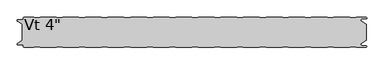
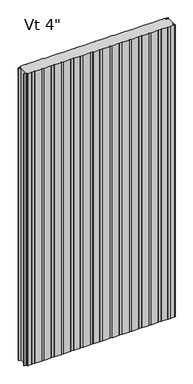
"""IFC4 building model written with IfcOpenShell, lengths in millimetres: plate geometry."""

from ifc_helpers import new_model, si_unit, frame, origin, place, context, project, spatial, polyline, circle_curve, source, transform, mapped, element, save
from ifc_brep_helpers import plane_surface, cylinder_surface, revolved_surface, advanced_brep


def plate_4e78df50(model_context):
    return source(origin(), model_context, "Body", "AdvancedBrep", [
        advanced_brep(
        [(521.5205195, -99.4088405, 2400.0), (541.3035142, -99.4088405, 2400.0), (542.3760351, -100.5999956, 2400.0), (574.5475652, -100.5999956, 2400.0), (576.5248337, -98.6227271, 2400.0), (576.5248337, -97.5806285, 2400.0), (574.5475652, -95.60336, 2400.0), (560.3591802, -95.60336, 2400.0), (557.7713036, -93.0154835, 2400.0), (557.7713036, -88.6950653, 2400.0), (557.1628365, -88.1060718, 2400.0), (554.7857432, -88.1060718, 2400.0), (554.7857432, -87.1065979, 2400.0), (560.2280123, -87.1065979, 2400.0), (576.2625, -77.8490821, 2400.0), (576.2625, -23.7509179, 2400.0), (560.2280123, -14.4934021, 2400.0), (554.7857432, -14.4934021, 2400.0), (554.7857432, -13.4939282, 2400.0), (557.1628365, -13.4939282, 2400.0), (557.7713036, -12.9049347, 2400.0), (557.7713036, -8.5845165, 2400.0), (560.3591802, -5.99664, 2400.0), (574.5475652, -5.99664, 2400.0), (576.5248337, -4.0193715, 2400.0), (576.5248337, -2.9772729, 2400.0), (574.5475652, -1.0000044, 2400.0), (542.3760351, -1.0000044, 2400.0), (541.3035142, -2.1911595, 2400.0), (521.5205195, -2.1911595, 2400.0), (520.4479947, -1.0, 2400.0), (466.7534187, -1.0, 2400.0), (465.6808939, -2.1911595, 2400.0), (445.8978992, -2.1911595, 2400.0), (444.8253744, -1.0, 2400.0), (391.1307985, -1.0, 2400.0), (390.0582736, -2.1911595, 2400.0), (370.275279, -2.1911595, 2400.0), (369.2027541, -1.0, 2400.0), (315.5081782, -1.0, 2400.0), (314.4356534, -2.1911595, 2400.0), (294.6526587, -2.1911595, 2400.0), (293.5801339, -1.0, 2400.0), (239.885558, -1.0, 2400.0), (238.8130331, -2.1911595, 2400.0), (219.0300384, -2.1911595, 2400.0), (217.9575136, -1.0, 2400.0), (164.2629377, -1.0, 2400.0), (163.1904129, -2.1911595, 2400.0), (143.4074182, -2.1911595, 2400.0), (142.3348933, -1.0, 2400.0), (88.6403174, -1.0, 2400.0), (87.5677926, -2.1911595, 2400.0), (67.7847979, -2.1911595, 2400.0), (66.7122731, -1.0, 2400.0), (13.0176972, -1.0, 2400.0), (11.9451723, -2.1911595, 2400.0), (-7.8378224, -2.1911595, 2400.0), (-8.9103472, -1.0, 2400.0), (-62.6049231, -1.0, 2400.0), (-63.6774479, -2.1911595, 2400.0), (-83.4604426, -2.1911595, 2400.0), (-84.5329675, -1.0, 2400.0), (-138.2275434, -1.0, 2400.0), (-139.3000682, -2.1911595, 2400.0), (-159.0830629, -2.1911595, 2400.0), (-160.1555877, -1.0, 2400.0), (-213.8501636, -1.0, 2400.0), (-214.9226885, -2.1911595, 2400.0), (-234.7056831, -2.1911595, 2400.0), (-235.778208, -1.0, 2400.0), (-289.4727839, -1.0, 2400.0), (-290.5453087, -2.1911595, 2400.0), (-310.3283034, -2.1911595, 2400.0), (-311.4008282, -1.0, 2400.0), (-365.0954042, -1.0, 2400.0), (-366.167929, -2.1911595, 2400.0), (-385.9509237, -2.1911595, 2400.0), (-387.0234485, -1.0, 2400.0), (-440.7180244, -1.0, 2400.0), (-441.7905493, -2.1911595, 2400.0), (-461.5735439, -2.1911595, 2400.0), (-462.6460688, -1.0, 2400.0), (-516.3406447, -1.0, 2400.0), (-517.4131695, -2.1911595, 2400.0), (-537.1961642, -2.1911595, 2400.0), (-538.268689, -1.0000109, 2400.0), (-570.4352761, -1.0000109, 2400.0), (-572.4125501, -2.9772849, 2400.0), (-572.4125501, -5.2691749, 2400.0), (-576.3898173, -9.246442, 2400.0), (-591.9862417, -9.246442, 2400.0), (-592.5741186, -9.8343189, 2400.0), (-592.5741186, -12.9058679, 2400.0), (-591.986242, -13.4937446, 2400.0), (-589.6312064, -13.4937446, 2400.0), (-589.6312064, -14.4937446, 2400.0), (-591.9207851, -14.4937446, 2400.0), (-576.2625, -23.7509179, 2400.0), (-576.2625, -77.8490865, 2400.0), (-591.9207851, -87.1062554, 2400.0), (-589.6312064, -87.1062554, 2400.0), (-589.6312064, -88.1062554, 2400.0), (-591.986242, -88.1062554, 2400.0), (-592.5741186, -88.6941321, 2400.0), (-592.5741186, -91.7656811, 2400.0), (-591.9862417, -92.353558, 2400.0), (-576.3898173, -92.353558, 2400.0), (-572.4125501, -96.3308251, 2400.0), (-572.4125501, -98.6227151, 2400.0), (-570.4352761, -100.5999891, 2400.0), (-538.268689, -100.5999891, 2400.0), (-537.1961642, -99.4088405, 2400.0), (-517.4131695, -99.4088405, 2400.0), (-516.3406447, -100.6, 2400.0), (-462.6460688, -100.6, 2400.0), (-461.5735439, -99.4088405, 2400.0), (-441.7905493, -99.4088405, 2400.0), (-440.7180244, -100.6, 2400.0), (-387.0234485, -100.6, 2400.0), (-385.9509237, -99.4088405, 2400.0), (-366.167929, -99.4088405, 2400.0), (-365.0954042, -100.6, 2400.0), (-311.4008282, -100.6, 2400.0), (-310.3283034, -99.4088405, 2400.0), (-290.5453087, -99.4088405, 2400.0), (-289.4727839, -100.6, 2400.0), (-235.778208, -100.6, 2400.0), (-234.7056831, -99.4088405, 2400.0), (-214.9226885, -99.4088405, 2400.0), (-213.8501636, -100.6, 2400.0), (-160.1555877, -100.6, 2400.0), (-159.0830629, -99.4088405, 2400.0), (-139.3000682, -99.4088405, 2400.0), (-138.2275434, -100.6, 2400.0), (-84.5329675, -100.6, 2400.0), (-83.4604426, -99.4088405, 2400.0), (-63.6774479, -99.4088405, 2400.0), (-62.6049231, -100.6, 2400.0), (-8.9103472, -100.6, 2400.0), (-7.8378224, -99.4088405, 2400.0), (11.9451723, -99.4088405, 2400.0), (13.0176972, -100.6, 2400.0), (66.7122731, -100.6, 2400.0), (67.7847979, -99.4088405, 2400.0), (87.5677926, -99.4088405, 2400.0), (88.6403174, -100.6, 2400.0), (142.3348933, -100.6, 2400.0), (143.4074182, -99.4088405, 2400.0), (163.1904129, -99.4088405, 2400.0), (164.2629377, -100.6, 2400.0), (217.9575136, -100.6, 2400.0), (219.0300384, -99.4088405, 2400.0), (238.8130331, -99.4088405, 2400.0), (239.885558, -100.6, 2400.0), (293.5801339, -100.6, 2400.0), (294.6526587, -99.4088405, 2400.0), (314.4356534, -99.4088405, 2400.0), (315.5081782, -100.6, 2400.0), (369.2027541, -100.6, 2400.0), (370.275279, -99.4088405, 2400.0), (390.0582736, -99.4088405, 2400.0), (391.1307985, -100.6, 2400.0), (444.8253744, -100.6, 2400.0), (445.8978992, -99.4088405, 2400.0), (465.6808939, -99.4088405, 2400.0), (466.7534187, -100.6, 2400.0), (520.4479947, -100.6, 2400.0), (521.5205195, -99.4088405, 0.0), (520.4479947, -100.6, 0.0), (466.7534187, -100.6, 0.0), (465.6808939, -99.4088405, 0.0), (445.8978992, -99.4088405, 0.0), (444.8253744, -100.6, 0.0), (391.1307985, -100.6, 0.0), (390.0582736, -99.4088405, 0.0), (370.275279, -99.4088405, 0.0), (369.2027541, -100.6, 0.0), (315.5081782, -100.6, 0.0), (314.4356534, -99.4088405, 0.0), (294.6526587, -99.4088405, 0.0), (293.5801339, -100.6, 0.0), (239.885558, -100.6, 0.0), (238.8130331, -99.4088405, 0.0), (219.0300384, -99.4088405, 0.0), (217.9575136, -100.6, 0.0), (164.2629377, -100.6, 0.0), (163.1904129, -99.4088405, 0.0), (143.4074182, -99.4088405, 0.0), (142.3348933, -100.6, 0.0), (88.6403174, -100.6, 0.0), (87.5677926, -99.4088405, 0.0), (67.7847979, -99.4088405, 0.0), (66.7122731, -100.6, 0.0), (13.0176972, -100.6, 0.0), (11.9451723, -99.4088405, 0.0), (-7.8378224, -99.4088405, 0.0), (-8.9103472, -100.6, 0.0), (-62.6049231, -100.6, 0.0), (-63.6774479, -99.4088405, 0.0), (-83.4604426, -99.4088405, 0.0), (-84.5329675, -100.6, 0.0), (-138.2275434, -100.6, 0.0), (-139.3000682, -99.4088405, 0.0), (-159.0830629, -99.4088405, 0.0), (-160.1555877, -100.6, 0.0), (-213.8501636, -100.6, 0.0), (-214.9226885, -99.4088405, 0.0), (-234.7056831, -99.4088405, 0.0), (-235.778208, -100.6, 0.0), (-289.4727839, -100.6, 0.0), (-290.5453087, -99.4088405, 0.0), (-310.3283034, -99.4088405, 0.0), (-311.4008282, -100.6, 0.0), (-365.0954042, -100.6, 0.0), (-366.167929, -99.4088405, 0.0), (-385.9509237, -99.4088405, 0.0), (-387.0234485, -100.6, 0.0), (-440.7180244, -100.6, 0.0), (-441.7905493, -99.4088405, 0.0), (-461.5735439, -99.4088405, 0.0), (-462.6460688, -100.6, 0.0), (-516.3406447, -100.6, 0.0), (-517.4131695, -99.4088405, 0.0), (-537.1961642, -99.4088405, 0.0), (-538.268689, -100.5999891, 0.0), (-570.4352761, -100.5999891, 0.0), (-572.4125501, -98.6227151, 0.0), (-572.4125501, -96.3308251, 0.0), (-576.3898173, -92.353558, 0.0), (-591.9862417, -92.353558, 0.0), (-592.5741186, -91.7656811, 0.0), (-592.5741186, -88.6941321, 0.0), (-591.986242, -88.1062554, 0.0), (-589.6312064, -88.1062554, 0.0), (-589.6312064, -87.1062554, 0.0), (-591.9207851, -87.1062554, 0.0), (-576.2625, -77.8490821, 0.0), (-576.2625, -23.7509179, 0.0), (-591.9207851, -14.4937446, 0.0), (-589.6312064, -14.4937446, 0.0), (-589.6312064, -13.4937446, 0.0), (-591.986242, -13.4937446, 0.0), (-592.5741186, -12.9058679, 0.0), (-592.5741186, -9.8343189, 0.0), (-591.9862417, -9.246442, 0.0), (-576.3898173, -9.246442, 0.0), (-572.4125501, -5.2691749, 0.0), (-572.4125501, -2.9772849, 0.0), (-570.4352761, -1.0000109, 0.0), (-538.268689, -1.0000109, 0.0), (-537.1961642, -2.1911595, 0.0), (-517.4131695, -2.1911595, 0.0), (-516.3406447, -1.0, 0.0), (-462.6460688, -1.0, 0.0), (-461.5735439, -2.1911595, 0.0), (-441.7905493, -2.1911595, 0.0), (-440.7180244, -1.0, 0.0), (-387.0234485, -1.0, 0.0), (-385.9509237, -2.1911595, 0.0), (-366.167929, -2.1911595, 0.0), (-365.0954042, -1.0, 0.0), (-311.4008282, -1.0, 0.0), (-310.3283034, -2.1911595, 0.0), (-290.5453087, -2.1911595, 0.0), (-289.4727839, -1.0, 0.0), (-235.778208, -1.0, 0.0), (-234.7056831, -2.1911595, 0.0), (-214.9226885, -2.1911595, 0.0), (-213.8501636, -1.0, 0.0), (-160.1555877, -1.0, 0.0), (-159.0830629, -2.1911595, 0.0), (-139.3000682, -2.1911595, 0.0), (-138.2275434, -1.0, 0.0), (-84.5329675, -1.0, 0.0), (-83.4604426, -2.1911595, 0.0), (-63.6774479, -2.1911595, 0.0), (-62.6049231, -1.0, 0.0), (-8.9103472, -1.0, 0.0), (-7.8378224, -2.1911595, 0.0), (11.9451723, -2.1911595, 0.0), (13.0176972, -1.0, 0.0), (66.7122731, -1.0, 0.0), (67.7847979, -2.1911595, 0.0), (87.5677926, -2.1911595, 0.0), (88.6403174, -1.0, 0.0), (142.3348933, -1.0, 0.0), (143.4074182, -2.1911595, 0.0), (163.1904129, -2.1911595, 0.0), (164.2629377, -1.0, 0.0), (217.9575136, -1.0, 0.0), (219.0300384, -2.1911595, 0.0), (238.8130331, -2.1911595, 0.0), (239.885558, -1.0, 0.0), (293.5801339, -1.0, 0.0), (294.6526587, -2.1911595, 0.0), (314.4356534, -2.1911595, 0.0), (315.5081782, -1.0, 0.0), (369.2027541, -1.0, 0.0), (370.275279, -2.1911595, 0.0), (390.0582736, -2.1911595, 0.0), (391.1307985, -1.0, 0.0), (444.8253744, -1.0, 0.0), (445.8978992, -2.1911595, 0.0), (465.6808939, -2.1911595, 0.0), (466.7534187, -1.0, 0.0), (520.4479947, -1.0, 0.0), (521.5205195, -2.1911595, 0.0), (541.3035142, -2.1911595, 0.0), (542.3760351, -1.0000044, 0.0), (574.5475652, -1.0000044, 0.0), (576.5248337, -2.9772729, 0.0), (576.5248337, -4.0193715, 0.0), (574.5475652, -5.99664, 0.0), (560.3591802, -5.99664, 0.0), (557.7713036, -8.5845165, 0.0), (557.7713036, -12.9049347, 0.0), (557.1628365, -13.4939282, 0.0), (554.7857432, -13.4939282, 0.0), (554.7857432, -14.4934021, 0.0), (560.2280123, -14.4934021, 0.0), (576.2625, -23.7509179, 0.0), (576.2625, -77.8490865, 0.0), (560.2280123, -87.1065979, 0.0), (554.7857432, -87.1065979, 0.0), (554.7857432, -88.1060718, 0.0), (557.1628365, -88.1060718, 0.0), (557.7713036, -88.6950653, 0.0), (557.7713036, -93.0154835, 0.0), (560.3591802, -95.60336, 0.0), (574.5475652, -95.60336, 0.0), (576.5248337, -97.5806285, 0.0), (576.5248337, -98.6227271, 0.0), (574.5475652, -100.5999956, 0.0), (542.3760351, -100.5999956, 0.0), (541.3035142, -99.4088405, 0.0)],
        [
            (0, 1),
            (1, 2),
            (2, 3),
            (3, 4, circle_curve(frame((574.5475652, -98.6227271, 2400.0), z_axis=(0.0, 0.0, 1.0), x_axis=(-1.0, 0.0, 0.0)), 1.9772685)),
            (4, 5),
            (5, 6, circle_curve(frame((574.5475652, -97.5806285, 2400.0), z_axis=(0.0, 0.0, 1.0), x_axis=(-1.0, 0.0, 0.0)), 1.9772685)),
            (6, 7),
            (7, 8, circle_curve(frame((560.3591802, -93.0154835, 2400.0), z_axis=(0.0, 0.0, -1.0), x_axis=(-1.0, 0.0, 0.0)), 2.5878765)),
            (8, 9),
            (9, 10, circle_curve(frame((557.1819985, -88.6950653, 2400.0), z_axis=(0.0, 0.0, 1.0), x_axis=(-1.0, 0.0, 0.0)), 0.5893051)),
            (10, 11),
            (11, 12),
            (12, 13),
            (13, 14),
            (14, 15),
            (15, 16),
            (16, 17),
            (17, 18),
            (18, 19),
            (19, 20, circle_curve(frame((557.1819985, -12.9049347, 2400.0), z_axis=(0.0, 0.0, 1.0), x_axis=(0.0, 1.0, 0.0)), 0.5893051)),
            (20, 21),
            (21, 22, circle_curve(frame((560.3591802, -8.5845165, 2400.0), z_axis=(0.0, 0.0, -1.0), x_axis=(0.0, 1.0, 0.0)), 2.5878765)),
            (22, 23),
            (23, 24, circle_curve(frame((574.5475652, -4.0193715, 2400.0), z_axis=(0.0, 0.0, 1.0), x_axis=(0.0, 1.0, 0.0)), 1.9772685)),
            (24, 25),
            (25, 26, circle_curve(frame((574.5475652, -2.9772729, 2400.0), z_axis=(0.0, 0.0, 1.0), x_axis=(0.0, 1.0, 0.0)), 1.9772685)),
            (26, 27),
            (27, 28),
            (28, 29),
            (29, 30),
            (30, 31),
            (31, 32),
            (32, 33),
            (33, 34),
            (34, 35),
            (35, 36),
            (36, 37),
            (37, 38),
            (38, 39),
            (39, 40),
            (40, 41),
            (41, 42),
            (42, 43),
            (43, 44),
            (44, 45),
            (45, 46),
            (46, 47),
            (47, 48),
            (48, 49),
            (49, 50),
            (50, 51),
            (51, 52),
            (52, 53),
            (53, 54),
            (54, 55),
            (55, 56),
            (56, 57),
            (57, 58),
            (58, 59),
            (59, 60),
            (60, 61),
            (61, 62),
            (62, 63),
            (63, 64),
            (64, 65),
            (65, 66),
            (66, 67),
            (67, 68),
            (68, 69),
            (69, 70),
            (70, 71),
            (71, 72),
            (72, 73),
            (73, 74),
            (74, 75),
            (75, 76),
            (76, 77),
            (77, 78),
            (78, 79),
            (79, 80),
            (80, 81),
            (81, 82),
            (82, 83),
            (83, 84),
            (84, 85),
            (85, 86),
            (86, 87),
            (87, 88, circle_curve(frame((-570.4352761, -2.9772849, 2400.0), z_axis=(0.0, 0.0, 1.0), x_axis=(0.0, 1.0, 0.0)), 1.977274)),
            (88, 89),
            (89, 90, circle_curve(frame((-576.3898173, -5.2691749, 2400.0), z_axis=(0.0, 0.0, -1.0), x_axis=(0.0, 1.0, 0.0)), 3.9772671)),
            (90, 91),
            (91, 92, circle_curve(frame((-591.9862417, -9.8343189, 2400.0), z_axis=(0.0, 0.0, 1.0), x_axis=(0.0, 1.0, 0.0)), 0.5878769)),
            (92, 93),
            (93, 94, circle_curve(frame((-591.986242, -12.9058679, 2400.0), z_axis=(0.0, 0.0, 1.0), x_axis=(0.0, 1.0, 0.0)), 0.5878766)),
            (94, 95),
            (95, 96),
            (96, 97),
            (97, 98),
            (98, 99),
            (99, 100),
            (100, 101),
            (101, 102),
            (102, 103),
            (103, 104, circle_curve(frame((-591.986242, -88.6941321, 2400.0), z_axis=(0.0, 0.0, 1.0), x_axis=(-1.0, 0.0, 0.0)), 0.5878766)),
            (104, 105),
            (105, 106, circle_curve(frame((-591.9862417, -91.7656811, 2400.0), z_axis=(0.0, 0.0, 1.0), x_axis=(-1.0, 0.0, 0.0)), 0.5878769)),
            (106, 107),
            (107, 108, circle_curve(frame((-576.3898173, -96.3308251, 2400.0), z_axis=(0.0, 0.0, -1.0), x_axis=(-1.0, 0.0, 0.0)), 3.9772671)),
            (108, 109),
            (109, 110, circle_curve(frame((-570.4352761, -98.6227151, 2400.0), z_axis=(0.0, 0.0, 1.0), x_axis=(-1.0, 0.0, 0.0)), 1.977274)),
            (110, 111),
            (111, 112),
            (112, 113),
            (113, 114),
            (114, 115),
            (115, 116),
            (116, 117),
            (117, 118),
            (118, 119),
            (119, 120),
            (120, 121),
            (121, 122),
            (122, 123),
            (123, 124),
            (124, 125),
            (125, 126),
            (126, 127),
            (127, 128),
            (128, 129),
            (129, 130),
            (130, 131),
            (131, 132),
            (132, 133),
            (133, 134),
            (134, 135),
            (135, 136),
            (136, 137),
            (137, 138),
            (138, 139),
            (139, 140),
            (140, 141),
            (141, 142),
            (142, 143),
            (143, 144),
            (144, 145),
            (145, 146),
            (146, 147),
            (147, 148),
            (148, 149),
            (149, 150),
            (150, 151),
            (151, 152),
            (152, 153),
            (153, 154),
            (154, 155),
            (155, 156),
            (156, 157),
            (157, 158),
            (158, 159),
            (159, 160),
            (160, 161),
            (161, 162),
            (162, 163),
            (163, 164),
            (164, 165),
            (165, 166),
            (166, 167),
            (167, 0),
            (168, 169),
            (169, 170),
            (170, 171),
            (171, 172),
            (172, 173),
            (173, 174),
            (174, 175),
            (175, 176),
            (176, 177),
            (177, 178),
            (178, 179),
            (179, 180),
            (180, 181),
            (181, 182),
            (182, 183),
            (183, 184),
            (184, 185),
            (185, 186),
            (186, 187),
            (187, 188),
            (188, 189),
            (189, 190),
            (190, 191),
            (191, 192),
            (192, 193),
            (193, 194),
            (194, 195),
            (195, 196),
            (196, 197),
            (197, 198),
            (198, 199),
            (199, 200),
            (200, 201),
            (201, 202),
            (202, 203),
            (203, 204),
            (204, 205),
            (205, 206),
            (206, 207),
            (207, 208),
            (208, 209),
            (209, 210),
            (210, 211),
            (211, 212),
            (212, 213),
            (213, 214),
            (214, 215),
            (215, 216),
            (216, 217),
            (217, 218),
            (218, 219),
            (219, 220),
            (220, 221),
            (221, 222),
            (222, 223),
            (223, 224),
            (224, 225),
            (225, 226),
            (226, 227, circle_curve(frame((-570.4352761, -98.6227151, 0.0), z_axis=(0.0, 0.0, -1.0), x_axis=(-1.0, 0.0, 0.0)), 1.977274)),
            (227, 228),
            (228, 229, circle_curve(frame((-576.3898173, -96.3308251, 0.0), z_axis=(0.0, 0.0, 1.0), x_axis=(-1.0, 0.0, 0.0)), 3.9772671)),
            (229, 230),
            (230, 231, circle_curve(frame((-591.9862417, -91.7656811, 0.0), z_axis=(0.0, 0.0, -1.0), x_axis=(-1.0, 0.0, 0.0)), 0.5878769)),
            (231, 232),
            (232, 233, circle_curve(frame((-591.986242, -88.6941321, 0.0), z_axis=(0.0, 0.0, -1.0), x_axis=(-1.0, 0.0, 0.0)), 0.5878766)),
            (233, 234),
            (234, 235),
            (235, 236),
            (236, 237),
            (237, 238),
            (238, 239),
            (239, 240),
            (240, 241),
            (241, 242),
            (242, 243, circle_curve(frame((-591.986242, -12.9058679, 0.0), z_axis=(0.0, 0.0, -1.0), x_axis=(0.0, 1.0, 0.0)), 0.5878766)),
            (243, 244),
            (244, 245, circle_curve(frame((-591.9862417, -9.8343189, 0.0), z_axis=(0.0, 0.0, -1.0), x_axis=(0.0, 1.0, 0.0)), 0.5878769)),
            (245, 246),
            (246, 247, circle_curve(frame((-576.3898173, -5.2691749, 0.0), z_axis=(0.0, 0.0, 1.0), x_axis=(0.0, 1.0, 0.0)), 3.9772671)),
            (247, 248),
            (248, 249, circle_curve(frame((-570.4352761, -2.9772849, 0.0), z_axis=(0.0, 0.0, -1.0), x_axis=(0.0, 1.0, 0.0)), 1.977274)),
            (249, 250),
            (250, 251),
            (251, 252),
            (252, 253),
            (253, 254),
            (254, 255),
            (255, 256),
            (256, 257),
            (257, 258),
            (258, 259),
            (259, 260),
            (260, 261),
            (261, 262),
            (262, 263),
            (263, 264),
            (264, 265),
            (265, 266),
            (266, 267),
            (267, 268),
            (268, 269),
            (269, 270),
            (270, 271),
            (271, 272),
            (272, 273),
            (273, 274),
            (274, 275),
            (275, 276),
            (276, 277),
            (277, 278),
            (278, 279),
            (279, 280),
            (280, 281),
            (281, 282),
            (282, 283),
            (283, 284),
            (284, 285),
            (285, 286),
            (286, 287),
            (287, 288),
            (288, 289),
            (289, 290),
            (290, 291),
            (291, 292),
            (292, 293),
            (293, 294),
            (294, 295),
            (295, 296),
            (296, 297),
            (297, 298),
            (298, 299),
            (299, 300),
            (300, 301),
            (301, 302),
            (302, 303),
            (303, 304),
            (304, 305),
            (305, 306),
            (306, 307),
            (307, 308),
            (308, 309),
            (309, 310),
            (310, 311, circle_curve(frame((574.5475652, -2.9772729, 0.0), z_axis=(0.0, 0.0, -1.0), x_axis=(0.0, 1.0, 0.0)), 1.9772685)),
            (311, 312),
            (312, 313, circle_curve(frame((574.5475652, -4.0193715, 0.0), z_axis=(0.0, 0.0, -1.0), x_axis=(0.0, 1.0, 0.0)), 1.9772685)),
            (313, 314),
            (314, 315, circle_curve(frame((560.3591802, -8.5845165, 0.0), z_axis=(0.0, 0.0, 1.0), x_axis=(0.0, 1.0, 0.0)), 2.5878765)),
            (315, 316),
            (316, 317, circle_curve(frame((557.1819985, -12.9049347, 0.0), z_axis=(0.0, 0.0, -1.0), x_axis=(0.0, 1.0, 0.0)), 0.5893051)),
            (317, 318),
            (318, 319),
            (319, 320),
            (320, 321),
            (321, 322),
            (322, 323),
            (323, 324),
            (324, 325),
            (325, 326),
            (326, 327, circle_curve(frame((557.1819985, -88.6950653, 0.0), z_axis=(0.0, 0.0, -1.0), x_axis=(-1.0, 0.0, 0.0)), 0.5893051)),
            (327, 328),
            (328, 329, circle_curve(frame((560.3591802, -93.0154835, 0.0), z_axis=(0.0, 0.0, 1.0), x_axis=(-1.0, 0.0, 0.0)), 2.5878765)),
            (329, 330),
            (330, 331, circle_curve(frame((574.5475652, -97.5806285, 0.0), z_axis=(0.0, 0.0, -1.0), x_axis=(-1.0, 0.0, 0.0)), 1.9772685)),
            (331, 332),
            (332, 333, circle_curve(frame((574.5475652, -98.6227271, 0.0), z_axis=(0.0, 0.0, -1.0), x_axis=(-1.0, 0.0, 0.0)), 1.9772685)),
            (333, 334),
            (334, 335),
            (335, 168),
            (98, 238),
            (237, 99),
            (14, 322),
            (321, 15),
            (28, 308),
            (307, 29),
            (27, 309),
            (26, 310),
            (25, 311),
            (24, 312),
            (23, 313),
            (22, 314),
            (21, 315),
            (20, 316),
            (19, 317),
            (18, 318),
            (17, 319),
            (16, 320),
            (97, 239),
            (96, 240),
            (95, 241),
            (94, 242),
            (93, 243),
            (92, 244),
            (91, 245),
            (90, 246),
            (89, 247),
            (88, 248),
            (87, 249),
            (86, 250),
            (85, 251),
            (84, 252),
            (83, 253),
            (82, 254),
            (81, 255),
            (80, 256),
            (79, 257),
            (78, 258),
            (77, 259),
            (76, 260),
            (75, 261),
            (74, 262),
            (73, 263),
            (72, 264),
            (71, 265),
            (70, 266),
            (69, 267),
            (68, 268),
            (67, 269),
            (66, 270),
            (65, 271),
            (64, 272),
            (63, 273),
            (62, 274),
            (61, 275),
            (60, 276),
            (59, 277),
            (58, 278),
            (57, 279),
            (56, 280),
            (55, 281),
            (54, 282),
            (53, 283),
            (52, 284),
            (51, 285),
            (50, 286),
            (49, 287),
            (48, 288),
            (47, 289),
            (46, 290),
            (45, 291),
            (44, 292),
            (43, 293),
            (42, 294),
            (41, 295),
            (40, 296),
            (39, 297),
            (38, 298),
            (37, 299),
            (36, 300),
            (35, 301),
            (34, 302),
            (33, 303),
            (32, 304),
            (31, 305),
            (30, 306),
            (167, 169),
            (168, 0),
            (166, 170),
            (165, 171),
            (164, 172),
            (163, 173),
            (162, 174),
            (161, 175),
            (160, 176),
            (159, 177),
            (158, 178),
            (157, 179),
            (156, 180),
            (155, 181),
            (154, 182),
            (153, 183),
            (152, 184),
            (151, 185),
            (150, 186),
            (149, 187),
            (148, 188),
            (147, 189),
            (146, 190),
            (145, 191),
            (144, 192),
            (143, 193),
            (142, 194),
            (141, 195),
            (140, 196),
            (139, 197),
            (138, 198),
            (137, 199),
            (136, 200),
            (135, 201),
            (134, 202),
            (133, 203),
            (132, 204),
            (131, 205),
            (130, 206),
            (129, 207),
            (128, 208),
            (127, 209),
            (126, 210),
            (125, 211),
            (124, 212),
            (123, 213),
            (122, 214),
            (121, 215),
            (120, 216),
            (119, 217),
            (118, 218),
            (117, 219),
            (116, 220),
            (115, 221),
            (114, 222),
            (113, 223),
            (112, 224),
            (111, 225),
            (110, 226),
            (109, 227),
            (108, 228),
            (107, 229),
            (106, 230),
            (105, 231),
            (104, 232),
            (103, 233),
            (102, 234),
            (101, 235),
            (100, 236),
            (13, 323),
            (12, 324),
            (11, 325),
            (10, 326),
            (9, 327),
            (8, 328),
            (7, 329),
            (6, 330),
            (5, 331),
            (4, 332),
            (3, 333),
            (2, 334),
            (1, 335),
        ],
        [
            plane_surface(frame((0.0, -100.6, 2400.0), z_axis=(0.0, 0.0, 1.0), x_axis=(0.0, -1.0, 0.0))),
            plane_surface(frame((0.0, -100.6, 0.0), z_axis=(0.0, 0.0, -1.0), x_axis=(0.0, -1.0, 0.0))),
            plane_surface(frame((-576.2625, -77.8490865, 2400.0), z_axis=(-1.0, 0.0, 0.0), x_axis=(0.0, 0.0, -1.0))),
            plane_surface(frame((576.2625, -23.7509179, 2400.0), z_axis=(1.0, 0.0, 0.0), x_axis=(0.0, 0.0, -1.0))),
            plane_surface(frame((521.5205195, -2.1911595, 2400.0), z_axis=(0.0, 1.0, 0.0), x_axis=(0.0, 0.0, -1.0))),
            plane_surface(frame((541.3035142, -2.1911595, 2400.0), z_axis=(-0.7431448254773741, 0.6691306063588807, 0.0), x_axis=(0.0, 0.0, -1.0))),
            plane_surface(frame((542.3760351, -1.0000044, 2400.0), z_axis=(0.0, 1.0, 0.0), x_axis=(0.0, 0.0, -1.0))),
            cylinder_surface(frame((574.5475652, -2.9772729, 2400.0), z_axis=(0.0, 0.0, 1.0), x_axis=(0.0, 1.0, 0.0)), 1.9772685),
            plane_surface(frame((576.5248337, -2.9772729, 2400.0), z_axis=(1.0, 0.0, 0.0), x_axis=(0.0, 0.0, -1.0))),
            cylinder_surface(frame((574.5475652, -4.0193715, 2400.0), z_axis=(0.0, 0.0, 1.0), x_axis=(0.0, 1.0, 0.0)), 1.9772685),
            plane_surface(frame((574.5475652, -5.99664, 2400.0), z_axis=(0.0, -1.0, 0.0), x_axis=(0.0, 0.0, -1.0))),
            revolved_surface(polyline([(560.3591802, -5.996639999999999, 0.0), (560.3591802, -5.996639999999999, 2400.0)]), (560.3591802, -8.5845165, 2400.0), (0.0, 0.0, -1.0)),
            plane_surface(frame((557.7713036, -8.5845165, 2400.0), z_axis=(1.0, 0.0, 0.0), x_axis=(0.0, 0.0, -1.0))),
            cylinder_surface(frame((557.1819985, -12.9049347, 2400.0), z_axis=(0.0, 0.0, 1.0), x_axis=(0.0, 1.0, 0.0)), 0.5893051),
            plane_surface(frame((557.1628365, -13.4939282, 2400.0), z_axis=(0.0, -1.0, 0.0), x_axis=(0.0, 0.0, -1.0))),
            plane_surface(frame((554.7857432, -13.4939282, 2400.0), z_axis=(1.0, 0.0, 0.0), x_axis=(0.0, 0.0, -1.0))),
            plane_surface(frame((554.7857432, -14.4934021, 2400.0), z_axis=(0.0, 1.0, 0.0), x_axis=(0.0, 0.0, -1.0))),
            plane_surface(frame((560.2280123, -14.4934021, 2400.0), z_axis=(0.5000000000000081, 0.866025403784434, 0.0), x_axis=(0.0, 0.0, -1.0))),
            plane_surface(frame((-576.2625, -23.7509179, 2400.0), z_axis=(-0.5089147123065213, -0.860816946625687, 0.0), x_axis=(0.0, 0.0, -1.0))),
            plane_surface(frame((-591.9207851, -14.4937446, 2400.0), z_axis=(0.0, 1.0, 0.0), x_axis=(0.0, 0.0, -1.0))),
            plane_surface(frame((-589.6312064, -14.4937446, 2400.0), z_axis=(-1.0, 0.0, 0.0), x_axis=(0.0, 0.0, -1.0))),
            plane_surface(frame((-589.6312064, -13.4937446, 2400.0), z_axis=(0.0, -1.0, 0.0), x_axis=(0.0, 0.0, -1.0))),
            cylinder_surface(frame((-591.986242, -12.9058679, 2400.0), z_axis=(0.0, 0.0, 1.0), x_axis=(0.0, 1.0, 0.0)), 0.5878766),
            plane_surface(frame((-592.5741186, -12.9058679, 2400.0), z_axis=(-1.0, 0.0, 0.0), x_axis=(0.0, 0.0, -1.0))),
            cylinder_surface(frame((-591.9862417, -9.8343189, 2400.0), z_axis=(0.0, 0.0, 1.0), x_axis=(0.0, 1.0, 0.0)), 0.5878769),
            plane_surface(frame((-591.9862417, -9.246442, 2400.0), z_axis=(0.0, 1.0, 0.0), x_axis=(0.0, 0.0, -1.0))),
            revolved_surface(polyline([(-576.3898173, -1.2919078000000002, 0.0), (-576.3898173, -1.2919078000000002, 2400.0)]), (-576.3898173, -5.2691749, 2400.0), (0.0, 0.0, -1.0)),
            plane_surface(frame((-572.4125501, -5.2691749, 2400.0), z_axis=(-1.0, 0.0, 0.0), x_axis=(0.0, 0.0, -1.0))),
            cylinder_surface(frame((-570.4352761, -2.9772849, 2400.0), z_axis=(0.0, 0.0, 1.0), x_axis=(0.0, 1.0, 0.0)), 1.977274),
            plane_surface(frame((-570.4352761, -1.0000109, 2400.0), z_axis=(0.0, 1.0, 0.0), x_axis=(0.0, 0.0, -1.0))),
            plane_surface(frame((-538.268689, -1.0000109, 2400.0), z_axis=(0.7431417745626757, 0.669133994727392, 0.0), x_axis=(0.0, 0.0, -1.0))),
            plane_surface(frame((-537.1961642, -2.1911595, 2400.0), z_axis=(0.0, 1.0, 0.0), x_axis=(0.0, 0.0, -1.0))),
            plane_surface(frame((-517.4131695, -2.1911595, 2400.0), z_axis=(-0.7431448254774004, 0.6691306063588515, 0.0), x_axis=(0.0, 0.0, -1.0))),
            plane_surface(frame((-516.3406447, -1.0, 2400.0), z_axis=(0.0, 1.0, 0.0), x_axis=(0.0, 0.0, -1.0))),
            plane_surface(frame((-462.6460688, -1.0, 2400.0), z_axis=(0.7431448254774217, 0.6691306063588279, 0.0), x_axis=(0.0, 0.0, -1.0))),
            plane_surface(frame((-461.5735439, -2.1911595, 2400.0), z_axis=(0.0, 1.0, 0.0), x_axis=(0.0, 0.0, -1.0))),
            plane_surface(frame((-441.7905493, -2.1911595, 2400.0), z_axis=(-0.7431448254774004, 0.6691306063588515, 0.0), x_axis=(0.0, 0.0, -1.0))),
            plane_surface(frame((-440.7180244, -1.0, 2400.0), z_axis=(0.0, 1.0, 0.0), x_axis=(0.0, 0.0, -1.0))),
            plane_surface(frame((-387.0234485, -1.0, 2400.0), z_axis=(0.7431448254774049, 0.6691306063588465, 0.0), x_axis=(0.0, 0.0, -1.0))),
            plane_surface(frame((-385.9509237, -2.1911595, 2400.0), z_axis=(0.0, 1.0, 0.0), x_axis=(0.0, 0.0, -1.0))),
            plane_surface(frame((-366.167929, -2.1911595, 2400.0), z_axis=(-0.7431448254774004, 0.6691306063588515, 0.0), x_axis=(0.0, 0.0, -1.0))),
            plane_surface(frame((-365.0954042, -1.0, 2400.0), z_axis=(0.0, 1.0, 0.0), x_axis=(0.0, 0.0, -1.0))),
            plane_surface(frame((-311.4008282, -1.0, 2400.0), z_axis=(0.7431448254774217, 0.6691306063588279, 0.0), x_axis=(0.0, 0.0, -1.0))),
            plane_surface(frame((-310.3283034, -2.1911595, 2400.0), z_axis=(0.0, 1.0, 0.0), x_axis=(0.0, 0.0, -1.0))),
            plane_surface(frame((-290.5453087, -2.1911595, 2400.0), z_axis=(-0.7431448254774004, 0.6691306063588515, 0.0), x_axis=(0.0, 0.0, -1.0))),
            plane_surface(frame((-289.4727839, -1.0, 2400.0), z_axis=(0.0, 1.0, 0.0), x_axis=(0.0, 0.0, -1.0))),
            plane_surface(frame((-235.778208, -1.0, 2400.0), z_axis=(0.7431448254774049, 0.6691306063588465, 0.0), x_axis=(0.0, 0.0, -1.0))),
            plane_surface(frame((-234.7056831, -2.1911595, 2400.0), z_axis=(0.0, 1.0, 0.0), x_axis=(0.0, 0.0, -1.0))),
            plane_surface(frame((-214.9226885, -2.1911595, 2400.0), z_axis=(-0.7431448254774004, 0.6691306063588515, 0.0), x_axis=(0.0, 0.0, -1.0))),
            plane_surface(frame((-213.8501636, -1.0, 2400.0), z_axis=(0.0, 1.0, 0.0), x_axis=(0.0, 0.0, -1.0))),
            plane_surface(frame((-160.1555877, -1.0, 2400.0), z_axis=(0.7431448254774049, 0.6691306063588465, 0.0), x_axis=(0.0, 0.0, -1.0))),
            plane_surface(frame((-159.0830629, -2.1911595, 2400.0), z_axis=(0.0, 1.0, 0.0), x_axis=(0.0, 0.0, -1.0))),
            plane_surface(frame((-139.3000682, -2.1911595, 2400.0), z_axis=(-0.7431448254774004, 0.6691306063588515, 0.0), x_axis=(0.0, 0.0, -1.0))),
            plane_surface(frame((-138.2275434, -1.0, 2400.0), z_axis=(0.0, 1.0, 0.0), x_axis=(0.0, 0.0, -1.0))),
            plane_surface(frame((-84.5329675, -1.0, 2400.0), z_axis=(0.7431448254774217, 0.6691306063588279, 0.0), x_axis=(0.0, 0.0, -1.0))),
            plane_surface(frame((-83.4604426, -2.1911595, 2400.0), z_axis=(0.0, 1.0, 0.0), x_axis=(0.0, 0.0, -1.0))),
            plane_surface(frame((-63.6774479, -2.1911595, 2400.0), z_axis=(-0.7431448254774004, 0.6691306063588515, 0.0), x_axis=(0.0, 0.0, -1.0))),
            plane_surface(frame((-62.6049231, -1.0, 2400.0), z_axis=(0.0, 1.0, 0.0), x_axis=(0.0, 0.0, -1.0))),
            plane_surface(frame((-8.9103472, -1.0, 2400.0), z_axis=(0.7431448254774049, 0.6691306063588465, 0.0), x_axis=(0.0, 0.0, -1.0))),
            plane_surface(frame((-7.8378224, -2.1911595, 2400.0), z_axis=(0.0, 1.0, 0.0), x_axis=(0.0, 0.0, -1.0))),
            plane_surface(frame((11.9451723, -2.1911595, 2400.0), z_axis=(-0.7431448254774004, 0.6691306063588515, 0.0), x_axis=(0.0, 0.0, -1.0))),
            plane_surface(frame((13.0176972, -1.0, 2400.0), z_axis=(0.0, 1.0, 0.0), x_axis=(0.0, 0.0, -1.0))),
            plane_surface(frame((66.7122731, -1.0, 2400.0), z_axis=(0.7431448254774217, 0.6691306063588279, 0.0), x_axis=(0.0, 0.0, -1.0))),
            plane_surface(frame((67.7847979, -2.1911595, 2400.0), z_axis=(0.0, 1.0, 0.0), x_axis=(0.0, 0.0, -1.0))),
            plane_surface(frame((87.5677926, -2.1911595, 2400.0), z_axis=(-0.7431448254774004, 0.6691306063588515, 0.0), x_axis=(0.0, 0.0, -1.0))),
            plane_surface(frame((88.6403174, -1.0, 2400.0), z_axis=(0.0, 1.0, 0.0), x_axis=(0.0, 0.0, -1.0))),
            plane_surface(frame((142.3348933, -1.0, 2400.0), z_axis=(0.7431448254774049, 0.6691306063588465, 0.0), x_axis=(0.0, 0.0, -1.0))),
            plane_surface(frame((143.4074182, -2.1911595, 2400.0), z_axis=(0.0, 1.0, 0.0), x_axis=(0.0, 0.0, -1.0))),
            plane_surface(frame((163.1904129, -2.1911595, 2400.0), z_axis=(-0.7431448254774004, 0.6691306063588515, 0.0), x_axis=(0.0, 0.0, -1.0))),
            plane_surface(frame((164.2629377, -1.0, 2400.0), z_axis=(0.0, 1.0, 0.0), x_axis=(0.0, 0.0, -1.0))),
            plane_surface(frame((217.9575136, -1.0, 2400.0), z_axis=(0.7431448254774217, 0.6691306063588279, 0.0), x_axis=(0.0, 0.0, -1.0))),
            plane_surface(frame((219.0300384, -2.1911595, 2400.0), z_axis=(0.0, 1.0, 0.0), x_axis=(0.0, 0.0, -1.0))),
            plane_surface(frame((238.8130331, -2.1911595, 2400.0), z_axis=(-0.7431448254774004, 0.6691306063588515, 0.0), x_axis=(0.0, 0.0, -1.0))),
            plane_surface(frame((239.885558, -1.0, 2400.0), z_axis=(0.0, 1.0, 0.0), x_axis=(0.0, 0.0, -1.0))),
            plane_surface(frame((293.5801339, -1.0, 2400.0), z_axis=(0.7431448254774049, 0.6691306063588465, 0.0), x_axis=(0.0, 0.0, -1.0))),
            plane_surface(frame((294.6526587, -2.1911595, 2400.0), z_axis=(0.0, 1.0, 0.0), x_axis=(0.0, 0.0, -1.0))),
            plane_surface(frame((314.4356534, -2.1911595, 2400.0), z_axis=(-0.7431448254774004, 0.6691306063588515, 0.0), x_axis=(0.0, 0.0, -1.0))),
            plane_surface(frame((315.5081782, -1.0, 2400.0), z_axis=(0.0, 1.0, 0.0), x_axis=(0.0, 0.0, -1.0))),
            plane_surface(frame((369.2027541, -1.0, 2400.0), z_axis=(0.7431448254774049, 0.6691306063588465, 0.0), x_axis=(0.0, 0.0, -1.0))),
            plane_surface(frame((370.275279, -2.1911595, 2400.0), z_axis=(0.0, 1.0, 0.0), x_axis=(0.0, 0.0, -1.0))),
            plane_surface(frame((390.0582736, -2.1911595, 2400.0), z_axis=(-0.7431448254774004, 0.6691306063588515, 0.0), x_axis=(0.0, 0.0, -1.0))),
            plane_surface(frame((391.1307985, -1.0, 2400.0), z_axis=(0.0, 1.0, 0.0), x_axis=(0.0, 0.0, -1.0))),
            plane_surface(frame((444.8253744, -1.0, 2400.0), z_axis=(0.7431448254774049, 0.6691306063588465, 0.0), x_axis=(0.0, 0.0, -1.0))),
            plane_surface(frame((445.8978992, -2.1911595, 2400.0), z_axis=(0.0, 1.0, 0.0), x_axis=(0.0, 0.0, -1.0))),
            plane_surface(frame((465.6808939, -2.1911595, 2400.0), z_axis=(-0.7431448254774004, 0.6691306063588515, 0.0), x_axis=(0.0, 0.0, -1.0))),
            plane_surface(frame((466.7534187, -1.0, 2400.0), z_axis=(0.0, 1.0, 0.0), x_axis=(0.0, 0.0, -1.0))),
            plane_surface(frame((520.4479947, -1.0, 2400.0), z_axis=(0.7431448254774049, 0.6691306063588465, 0.0), x_axis=(0.0, 0.0, -1.0))),
            plane_surface(frame((521.5205195, -99.4088405, 2400.0), z_axis=(0.7431448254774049, -0.6691306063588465, 0.0), x_axis=(0.0, 0.0, -1.0))),
            plane_surface(frame((520.4479947, -100.6, 2400.0), z_axis=(0.0, -1.0, 0.0), x_axis=(0.0, 0.0, -1.0))),
            plane_surface(frame((466.7534187, -100.6, 2400.0), z_axis=(-0.7431448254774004, -0.6691306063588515, 0.0), x_axis=(0.0, 0.0, -1.0))),
            plane_surface(frame((465.6808939, -99.4088405, 2400.0), z_axis=(0.0, -1.0, 0.0), x_axis=(0.0, 0.0, -1.0))),
            plane_surface(frame((445.8978992, -99.4088405, 2400.0), z_axis=(0.7431448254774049, -0.6691306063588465, 0.0), x_axis=(0.0, 0.0, -1.0))),
            plane_surface(frame((444.8253744, -100.6, 2400.0), z_axis=(0.0, -1.0, 0.0), x_axis=(0.0, 0.0, -1.0))),
            plane_surface(frame((391.1307985, -100.6, 2400.0), z_axis=(-0.7431448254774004, -0.6691306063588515, 0.0), x_axis=(0.0, 0.0, -1.0))),
            plane_surface(frame((390.0582736, -99.4088405, 2400.0), z_axis=(0.0, -1.0, 0.0), x_axis=(0.0, 0.0, -1.0))),
            plane_surface(frame((370.275279, -99.4088405, 2400.0), z_axis=(0.7431448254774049, -0.6691306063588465, 0.0), x_axis=(0.0, 0.0, -1.0))),
            plane_surface(frame((369.2027541, -100.6, 2400.0), z_axis=(0.0, -1.0, 0.0), x_axis=(0.0, 0.0, -1.0))),
            plane_surface(frame((315.5081782, -100.6, 2400.0), z_axis=(-0.7431448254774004, -0.6691306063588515, 0.0), x_axis=(0.0, 0.0, -1.0))),
            plane_surface(frame((314.4356534, -99.4088405, 2400.0), z_axis=(0.0, -1.0, 0.0), x_axis=(0.0, 0.0, -1.0))),
            plane_surface(frame((294.6526587, -99.4088405, 2400.0), z_axis=(0.7431448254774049, -0.6691306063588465, 0.0), x_axis=(0.0, 0.0, -1.0))),
            plane_surface(frame((293.5801339, -100.6, 2400.0), z_axis=(0.0, -1.0, 0.0), x_axis=(0.0, 0.0, -1.0))),
            plane_surface(frame((239.885558, -100.6, 2400.0), z_axis=(-0.7431448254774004, -0.6691306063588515, 0.0), x_axis=(0.0, 0.0, -1.0))),
            plane_surface(frame((238.8130331, -99.4088405, 2400.0), z_axis=(0.0, -1.0, 0.0), x_axis=(0.0, 0.0, -1.0))),
            plane_surface(frame((219.0300384, -99.4088405, 2400.0), z_axis=(0.7431448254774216, -0.6691306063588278, 0.0), x_axis=(0.0, 0.0, -1.0))),
            plane_surface(frame((217.9575136, -100.6, 2400.0), z_axis=(0.0, -1.0, 0.0), x_axis=(0.0, 0.0, -1.0))),
            plane_surface(frame((164.2629377, -100.6, 2400.0), z_axis=(-0.7431448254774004, -0.6691306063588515, 0.0), x_axis=(0.0, 0.0, -1.0))),
            plane_surface(frame((163.1904129, -99.4088405, 2400.0), z_axis=(0.0, -1.0, 0.0), x_axis=(0.0, 0.0, -1.0))),
            plane_surface(frame((143.4074182, -99.4088405, 2400.0), z_axis=(0.7431448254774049, -0.6691306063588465, 0.0), x_axis=(0.0, 0.0, -1.0))),
            plane_surface(frame((142.3348933, -100.6, 2400.0), z_axis=(0.0, -1.0, 0.0), x_axis=(0.0, 0.0, -1.0))),
            plane_surface(frame((88.6403174, -100.6, 2400.0), z_axis=(-0.7431448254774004, -0.6691306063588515, 0.0), x_axis=(0.0, 0.0, -1.0))),
            plane_surface(frame((87.5677926, -99.4088405, 2400.0), z_axis=(0.0, -1.0, 0.0), x_axis=(0.0, 0.0, -1.0))),
            plane_surface(frame((67.7847979, -99.4088405, 2400.0), z_axis=(0.7431448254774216, -0.6691306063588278, 0.0), x_axis=(0.0, 0.0, -1.0))),
            plane_surface(frame((66.7122731, -100.6, 2400.0), z_axis=(0.0, -1.0, 0.0), x_axis=(0.0, 0.0, -1.0))),
            plane_surface(frame((13.0176972, -100.6, 2400.0), z_axis=(-0.7431448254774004, -0.6691306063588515, 0.0), x_axis=(0.0, 0.0, -1.0))),
            plane_surface(frame((11.9451723, -99.4088405, 2400.0), z_axis=(0.0, -1.0, 0.0), x_axis=(0.0, 0.0, -1.0))),
            plane_surface(frame((-7.8378224, -99.4088405, 2400.0), z_axis=(0.7431448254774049, -0.6691306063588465, 0.0), x_axis=(0.0, 0.0, -1.0))),
            plane_surface(frame((-8.9103472, -100.6, 2400.0), z_axis=(0.0, -1.0, 0.0), x_axis=(0.0, 0.0, -1.0))),
            plane_surface(frame((-62.6049231, -100.6, 2400.0), z_axis=(-0.7431448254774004, -0.6691306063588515, 0.0), x_axis=(0.0, 0.0, -1.0))),
            plane_surface(frame((-63.6774479, -99.4088405, 2400.0), z_axis=(0.0, -1.0, 0.0), x_axis=(0.0, 0.0, -1.0))),
            plane_surface(frame((-83.4604426, -99.4088405, 2400.0), z_axis=(0.7431448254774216, -0.6691306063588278, 0.0), x_axis=(0.0, 0.0, -1.0))),
            plane_surface(frame((-84.5329675, -100.6, 2400.0), z_axis=(0.0, -1.0, 0.0), x_axis=(0.0, 0.0, -1.0))),
            plane_surface(frame((-138.2275434, -100.6, 2400.0), z_axis=(-0.7431448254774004, -0.6691306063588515, 0.0), x_axis=(0.0, 0.0, -1.0))),
            plane_surface(frame((-139.3000682, -99.4088405, 2400.0), z_axis=(0.0, -1.0, 0.0), x_axis=(0.0, 0.0, -1.0))),
            plane_surface(frame((-159.0830629, -99.4088405, 2400.0), z_axis=(0.7431448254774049, -0.6691306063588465, 0.0), x_axis=(0.0, 0.0, -1.0))),
            plane_surface(frame((-160.1555877, -100.6, 2400.0), z_axis=(0.0, -1.0, 0.0), x_axis=(0.0, 0.0, -1.0))),
            plane_surface(frame((-213.8501636, -100.6, 2400.0), z_axis=(-0.7431448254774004, -0.6691306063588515, 0.0), x_axis=(0.0, 0.0, -1.0))),
            plane_surface(frame((-214.9226885, -99.4088405, 2400.0), z_axis=(0.0, -1.0, 0.0), x_axis=(0.0, 0.0, -1.0))),
            plane_surface(frame((-234.7056831, -99.4088405, 2400.0), z_axis=(0.7431448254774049, -0.6691306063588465, 0.0), x_axis=(0.0, 0.0, -1.0))),
            plane_surface(frame((-235.778208, -100.6, 2400.0), z_axis=(0.0, -1.0, 0.0), x_axis=(0.0, 0.0, -1.0))),
            plane_surface(frame((-289.4727839, -100.6, 2400.0), z_axis=(-0.7431448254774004, -0.6691306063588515, 0.0), x_axis=(0.0, 0.0, -1.0))),
            plane_surface(frame((-290.5453087, -99.4088405, 2400.0), z_axis=(0.0, -1.0, 0.0), x_axis=(0.0, 0.0, -1.0))),
            plane_surface(frame((-310.3283034, -99.4088405, 2400.0), z_axis=(0.7431448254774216, -0.6691306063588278, 0.0), x_axis=(0.0, 0.0, -1.0))),
            plane_surface(frame((-311.4008282, -100.6, 2400.0), z_axis=(0.0, -1.0, 0.0), x_axis=(0.0, 0.0, -1.0))),
            plane_surface(frame((-365.0954042, -100.6, 2400.0), z_axis=(-0.7431448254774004, -0.6691306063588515, 0.0), x_axis=(0.0, 0.0, -1.0))),
            plane_surface(frame((-366.167929, -99.4088405, 2400.0), z_axis=(0.0, -1.0, 0.0), x_axis=(0.0, 0.0, -1.0))),
            plane_surface(frame((-385.9509237, -99.4088405, 2400.0), z_axis=(0.7431448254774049, -0.6691306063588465, 0.0), x_axis=(0.0, 0.0, -1.0))),
            plane_surface(frame((-387.0234485, -100.6, 2400.0), z_axis=(0.0, -1.0, 0.0), x_axis=(0.0, 0.0, -1.0))),
            plane_surface(frame((-440.7180244, -100.6, 2400.0), z_axis=(-0.7431448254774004, -0.6691306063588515, 0.0), x_axis=(0.0, 0.0, -1.0))),
            plane_surface(frame((-441.7905493, -99.4088405, 2400.0), z_axis=(0.0, -1.0, 0.0), x_axis=(0.0, 0.0, -1.0))),
            plane_surface(frame((-461.5735439, -99.4088405, 2400.0), z_axis=(0.7431448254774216, -0.6691306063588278, 0.0), x_axis=(0.0, 0.0, -1.0))),
            plane_surface(frame((-462.6460688, -100.6, 2400.0), z_axis=(0.0, -1.0, 0.0), x_axis=(0.0, 0.0, -1.0))),
            plane_surface(frame((-516.3406447, -100.6, 2400.0), z_axis=(-0.7431448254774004, -0.6691306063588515, 0.0), x_axis=(0.0, 0.0, -1.0))),
            plane_surface(frame((-517.4131695, -99.4088405, 2400.0), z_axis=(0.0, -1.0, 0.0), x_axis=(0.0, 0.0, -1.0))),
            plane_surface(frame((-537.1961642, -99.4088405, 2400.0), z_axis=(0.7431417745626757, -0.669133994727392, 0.0), x_axis=(0.0, 0.0, -1.0))),
            plane_surface(frame((-538.268689, -100.5999891, 2400.0), z_axis=(0.0, -1.0, 0.0), x_axis=(0.0, 0.0, -1.0))),
            cylinder_surface(frame((-570.4352761, -98.6227151, 2400.0), z_axis=(0.0, 0.0, 1.0), x_axis=(-1.0, 0.0, 0.0)), 1.977274),
            plane_surface(frame((-572.4125501, -98.6227151, 2400.0), z_axis=(-1.0, 0.0, 0.0), x_axis=(0.0, 0.0, -1.0))),
            revolved_surface(polyline([(-580.3670844, -96.3308251, 0.0), (-580.3670844, -96.3308251, 2400.0)]), (-576.3898173, -96.3308251, 2400.0), (0.0, 0.0, -1.0)),
            plane_surface(frame((-576.3898173, -92.353558, 2400.0), z_axis=(0.0, -1.0, 0.0), x_axis=(0.0, 0.0, -1.0))),
            cylinder_surface(frame((-591.9862417, -91.7656811, 2400.0), z_axis=(0.0, 0.0, 1.0), x_axis=(-1.0, 0.0, 0.0)), 0.5878769),
            plane_surface(frame((-592.5741186, -91.7656811, 2400.0), z_axis=(-1.0, 0.0, 0.0), x_axis=(0.0, 0.0, -1.0))),
            cylinder_surface(frame((-591.986242, -88.6941321, 2400.0), z_axis=(0.0, 0.0, 1.0), x_axis=(-1.0, 0.0, 0.0)), 0.5878766),
            plane_surface(frame((-591.986242, -88.1062554, 2400.0), z_axis=(0.0, 1.0, 0.0), x_axis=(0.0, 0.0, -1.0))),
            plane_surface(frame((-589.6312064, -88.1062554, 2400.0), z_axis=(-1.0, 0.0, 0.0), x_axis=(0.0, 0.0, -1.0))),
            plane_surface(frame((-589.6312064, -87.1062554, 2400.0), z_axis=(0.0, -1.0, 0.0), x_axis=(0.0, 0.0, -1.0))),
            plane_surface(frame((-591.9207851, -87.1062554, 2400.0), z_axis=(-0.5089147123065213, 0.860816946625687, 0.0), x_axis=(0.0, 0.0, -1.0))),
            plane_surface(frame((576.2625, -77.8490821, 2400.0), z_axis=(0.500000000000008, -0.866025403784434, 0.0), x_axis=(0.0, 0.0, -1.0))),
            plane_surface(frame((560.2280123, -87.1065979, 2400.0), z_axis=(0.0, -1.0, 0.0), x_axis=(0.0, 0.0, -1.0))),
            plane_surface(frame((554.7857432, -87.1065979, 2400.0), z_axis=(1.0, 0.0, 0.0), x_axis=(0.0, 0.0, -1.0))),
            plane_surface(frame((554.7857432, -88.1060718, 2400.0), z_axis=(0.0, 1.0, 0.0), x_axis=(0.0, 0.0, -1.0))),
            cylinder_surface(frame((557.1819985, -88.6950653, 2400.0), z_axis=(0.0, 0.0, 1.0), x_axis=(-1.0, 0.0, 0.0)), 0.5893051),
            plane_surface(frame((557.7713036, -88.6950653, 2400.0), z_axis=(1.0, 0.0, 0.0), x_axis=(0.0, 0.0, -1.0))),
            revolved_surface(polyline([(557.7713037, -93.0154835, 0.0), (557.7713037, -93.0154835, 2400.0)]), (560.3591802, -93.0154835, 2400.0), (0.0, 0.0, -1.0)),
            plane_surface(frame((560.3591802, -95.60336, 2400.0), z_axis=(0.0, 1.0, 0.0), x_axis=(0.0, 0.0, -1.0))),
            cylinder_surface(frame((574.5475652, -97.5806285, 2400.0), z_axis=(0.0, 0.0, 1.0), x_axis=(-1.0, 0.0, 0.0)), 1.9772685),
            plane_surface(frame((576.5248337, -97.5806285, 2400.0), z_axis=(1.0, 0.0, 0.0), x_axis=(0.0, 0.0, -1.0))),
            cylinder_surface(frame((574.5475652, -98.6227271, 2400.0), z_axis=(0.0, 0.0, 1.0), x_axis=(-1.0, 0.0, 0.0)), 1.9772685),
            plane_surface(frame((574.5475652, -100.5999956, 2400.0), z_axis=(0.0, -1.0, 0.0), x_axis=(0.0, 0.0, -1.0))),
            plane_surface(frame((542.3760351, -100.5999956, 2400.0), z_axis=(-0.7431448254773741, -0.6691306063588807, 0.0), x_axis=(0.0, 0.0, -1.0))),
            plane_surface(frame((541.3035142, -99.4088405, 2400.0), z_axis=(0.0, -1.0, 0.0), x_axis=(0.0, 0.0, -1.0))),
        ],
        [
            (0, [[1, 2, 3, 4, 5, 6, 7, 8, 9, 10, 11, 12, 13, 14, 15, 16, 17, 18, 19, 20, 21, 22, 23, 24, 25, 26, 27, 28, 29, 30, 31, 32, 33, 34, 35, 36, 37, 38, 39, 40, 41, 42, 43, 44, 45, 46, 47, 48, 49, 50, 51, 52, 53, 54, 55, 56, 57, 58, 59, 60, 61, 62, 63, 64, 65, 66, 67, 68, 69, 70, 71, 72, 73, 74, 75, 76, 77, 78, 79, 80, 81, 82, 83, 84, 85, 86, 87, 88, 89, 90, 91, 92, 93, 94, 95, 96, 97, 98, 99, 100, 101, 102, 103, 104, 105, 106, 107, 108, 109, 110, 111, 112, 113, 114, 115, 116, 117, 118, 119, 120, 121, 122, 123, 124, 125, 126, 127, 128, 129, 130, 131, 132, 133, 134, 135, 136, 137, 138, 139, 140, 141, 142, 143, 144, 145, 146, 147, 148, 149, 150, 151, 152, 153, 154, 155, 156, 157, 158, 159, 160, 161, 162, 163, 164, 165, 166, 167, 168]]),
            (1, [[169, 170, 171, 172, 173, 174, 175, 176, 177, 178, 179, 180, 181, 182, 183, 184, 185, 186, 187, 188, 189, 190, 191, 192, 193, 194, 195, 196, 197, 198, 199, 200, 201, 202, 203, 204, 205, 206, 207, 208, 209, 210, 211, 212, 213, 214, 215, 216, 217, 218, 219, 220, 221, 222, 223, 224, 225, 226, 227, 228, 229, 230, 231, 232, 233, 234, 235, 236, 237, 238, 239, 240, 241, 242, 243, 244, 245, 246, 247, 248, 249, 250, 251, 252, 253, 254, 255, 256, 257, 258, 259, 260, 261, 262, 263, 264, 265, 266, 267, 268, 269, 270, 271, 272, 273, 274, 275, 276, 277, 278, 279, 280, 281, 282, 283, 284, 285, 286, 287, 288, 289, 290, 291, 292, 293, 294, 295, 296, 297, 298, 299, 300, 301, 302, 303, 304, 305, 306, 307, 308, 309, 310, 311, 312, 313, 314, 315, 316, 317, 318, 319, 320, 321, 322, 323, 324, 325, 326, 327, 328, 329, 330, 331, 332, 333, 334, 335, 336]]),
            (2, [[337, -238, 338, -99]]),
            (3, [[339, -322, 340, -15]]),
            (4, [[341, -308, 342, -29]]),
            (5, [[343, -309, -341, -28]]),
            (6, [[344, -310, -343, -27]]),
            (7, [[345, -311, -344, -26]]),
            (8, [[346, -312, -345, -25]]),
            (9, [[347, -313, -346, -24]]),
            (10, [[348, -314, -347, -23]]),
            (11, [[349, -315, -348, -22]]),
            (12, [[350, -316, -349, -21]]),
            (13, [[351, -317, -350, -20]]),
            (14, [[352, -318, -351, -19]]),
            (15, [[353, -319, -352, -18]]),
            (16, [[354, -320, -353, -17]]),
            (17, [[-340, -321, -354, -16]]),
            (18, [[355, -239, -337, -98]]),
            (19, [[356, -240, -355, -97]]),
            (20, [[357, -241, -356, -96]]),
            (21, [[358, -242, -357, -95]]),
            (22, [[359, -243, -358, -94]]),
            (23, [[360, -244, -359, -93]]),
            (24, [[361, -245, -360, -92]]),
            (25, [[362, -246, -361, -91]]),
            (26, [[363, -247, -362, -90]]),
            (27, [[364, -248, -363, -89]]),
            (28, [[365, -249, -364, -88]]),
            (29, [[366, -250, -365, -87]]),
            (30, [[367, -251, -366, -86]]),
            (31, [[368, -252, -367, -85]]),
            (32, [[369, -253, -368, -84]]),
            (33, [[370, -254, -369, -83]]),
            (34, [[371, -255, -370, -82]]),
            (35, [[372, -256, -371, -81]]),
            (36, [[373, -257, -372, -80]]),
            (37, [[374, -258, -373, -79]]),
            (38, [[375, -259, -374, -78]]),
            (39, [[376, -260, -375, -77]]),
            (40, [[377, -261, -376, -76]]),
            (41, [[378, -262, -377, -75]]),
            (42, [[379, -263, -378, -74]]),
            (43, [[380, -264, -379, -73]]),
            (44, [[381, -265, -380, -72]]),
            (45, [[382, -266, -381, -71]]),
            (46, [[383, -267, -382, -70]]),
            (47, [[384, -268, -383, -69]]),
            (48, [[385, -269, -384, -68]]),
            (49, [[386, -270, -385, -67]]),
            (50, [[387, -271, -386, -66]]),
            (51, [[388, -272, -387, -65]]),
            (52, [[389, -273, -388, -64]]),
            (53, [[390, -274, -389, -63]]),
            (54, [[391, -275, -390, -62]]),
            (55, [[392, -276, -391, -61]]),
            (56, [[393, -277, -392, -60]]),
            (57, [[394, -278, -393, -59]]),
            (58, [[395, -279, -394, -58]]),
            (59, [[396, -280, -395, -57]]),
            (60, [[397, -281, -396, -56]]),
            (61, [[398, -282, -397, -55]]),
            (62, [[399, -283, -398, -54]]),
            (63, [[400, -284, -399, -53]]),
            (64, [[401, -285, -400, -52]]),
            (65, [[402, -286, -401, -51]]),
            (66, [[403, -287, -402, -50]]),
            (67, [[404, -288, -403, -49]]),
            (68, [[405, -289, -404, -48]]),
            (69, [[406, -290, -405, -47]]),
            (70, [[407, -291, -406, -46]]),
            (71, [[408, -292, -407, -45]]),
            (72, [[409, -293, -408, -44]]),
            (73, [[410, -294, -409, -43]]),
            (74, [[411, -295, -410, -42]]),
            (75, [[412, -296, -411, -41]]),
            (76, [[413, -297, -412, -40]]),
            (77, [[414, -298, -413, -39]]),
            (78, [[415, -299, -414, -38]]),
            (79, [[416, -300, -415, -37]]),
            (80, [[417, -301, -416, -36]]),
            (81, [[418, -302, -417, -35]]),
            (82, [[419, -303, -418, -34]]),
            (83, [[420, -304, -419, -33]]),
            (84, [[421, -305, -420, -32]]),
            (85, [[422, -306, -421, -31]]),
            (86, [[-342, -307, -422, -30]]),
            (87, [[423, -169, 424, -168]]),
            (88, [[425, -170, -423, -167]]),
            (89, [[426, -171, -425, -166]]),
            (90, [[427, -172, -426, -165]]),
            (91, [[428, -173, -427, -164]]),
            (92, [[429, -174, -428, -163]]),
            (93, [[430, -175, -429, -162]]),
            (94, [[431, -176, -430, -161]]),
            (95, [[432, -177, -431, -160]]),
            (96, [[433, -178, -432, -159]]),
            (97, [[434, -179, -433, -158]]),
            (98, [[435, -180, -434, -157]]),
            (99, [[436, -181, -435, -156]]),
            (100, [[437, -182, -436, -155]]),
            (101, [[438, -183, -437, -154]]),
            (102, [[439, -184, -438, -153]]),
            (103, [[440, -185, -439, -152]]),
            (104, [[441, -186, -440, -151]]),
            (105, [[442, -187, -441, -150]]),
            (106, [[443, -188, -442, -149]]),
            (107, [[444, -189, -443, -148]]),
            (108, [[445, -190, -444, -147]]),
            (109, [[446, -191, -445, -146]]),
            (110, [[447, -192, -446, -145]]),
            (111, [[448, -193, -447, -144]]),
            (112, [[449, -194, -448, -143]]),
            (113, [[450, -195, -449, -142]]),
            (114, [[451, -196, -450, -141]]),
            (115, [[452, -197, -451, -140]]),
            (116, [[453, -198, -452, -139]]),
            (117, [[454, -199, -453, -138]]),
            (118, [[455, -200, -454, -137]]),
            (119, [[456, -201, -455, -136]]),
            (120, [[457, -202, -456, -135]]),
            (121, [[458, -203, -457, -134]]),
            (122, [[459, -204, -458, -133]]),
            (123, [[460, -205, -459, -132]]),
            (124, [[461, -206, -460, -131]]),
            (125, [[462, -207, -461, -130]]),
            (126, [[463, -208, -462, -129]]),
            (127, [[464, -209, -463, -128]]),
            (128, [[465, -210, -464, -127]]),
            (129, [[466, -211, -465, -126]]),
            (130, [[467, -212, -466, -125]]),
            (131, [[468, -213, -467, -124]]),
            (132, [[469, -214, -468, -123]]),
            (133, [[470, -215, -469, -122]]),
            (134, [[471, -216, -470, -121]]),
            (135, [[472, -217, -471, -120]]),
            (136, [[473, -218, -472, -119]]),
            (137, [[474, -219, -473, -118]]),
            (138, [[475, -220, -474, -117]]),
            (139, [[476, -221, -475, -116]]),
            (140, [[477, -222, -476, -115]]),
            (141, [[478, -223, -477, -114]]),
            (142, [[479, -224, -478, -113]]),
            (143, [[480, -225, -479, -112]]),
            (144, [[481, -226, -480, -111]]),
            (145, [[482, -227, -481, -110]]),
            (146, [[483, -228, -482, -109]]),
            (147, [[484, -229, -483, -108]]),
            (148, [[485, -230, -484, -107]]),
            (149, [[486, -231, -485, -106]]),
            (150, [[487, -232, -486, -105]]),
            (151, [[488, -233, -487, -104]]),
            (152, [[489, -234, -488, -103]]),
            (153, [[490, -235, -489, -102]]),
            (154, [[491, -236, -490, -101]]),
            (155, [[-338, -237, -491, -100]]),
            (156, [[492, -323, -339, -14]]),
            (157, [[493, -324, -492, -13]]),
            (158, [[494, -325, -493, -12]]),
            (159, [[495, -326, -494, -11]]),
            (160, [[496, -327, -495, -10]]),
            (161, [[497, -328, -496, -9]]),
            (162, [[498, -329, -497, -8]]),
            (163, [[499, -330, -498, -7]]),
            (164, [[500, -331, -499, -6]]),
            (165, [[501, -332, -500, -5]]),
            (166, [[502, -333, -501, -4]]),
            (167, [[503, -334, -502, -3]]),
            (168, [[504, -335, -503, -2]]),
            (169, [[-424, -336, -504, -1]]),
        ],
    ),
    ])


if __name__ == "__main__":
    model = new_model("IFC4")
    model_context = context("Model", 3, world=origin())
    ifc_project = project(units=[si_unit("LENGTHUNIT", "METRE", prefix="MILLI")], contexts=[model_context])
    site = spatial("IfcSite", under=ifc_project)
    building = spatial("IfcBuilding", under=site)
    placement = place(None, origin())
    plate_shape = plate_4e78df50(model_context)
    element("IfcPlate", 1, ObjectType="KIP-SLI-FLI-R19-CP-Vt-SL_SL : Vt 4\"", at=placement, inside=building, context=model_context, shape_type="MappedRepresentation", body=[
        mapped(plate_shape, transform((0.0, 0.0, 0.0), x_axis=(1.0, 0.0, 0.0), y_axis=(0.0, 1.0, 0.0), z_axis=(0.0, 0.0, 1.0))),
    ])
    save(model, "model.ifc")
